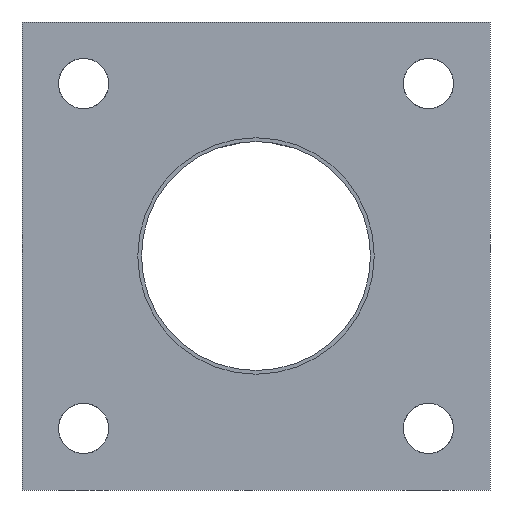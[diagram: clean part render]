
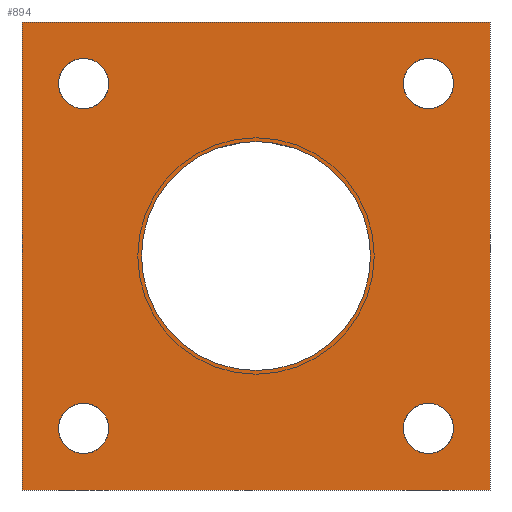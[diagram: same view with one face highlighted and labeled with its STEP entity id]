
A CAD part, front view. The second image highlights one B-rep face of the part: STEP entity #894.
In plain terms, the highlighted planar face has unit normal (0, -1, 0).
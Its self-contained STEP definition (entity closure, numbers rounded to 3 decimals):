
#1=CARTESIAN_POINT('',(0.,0.,0.));
#2=DIRECTION('',(0.,-1.,0.));
#3=DIRECTION('',(1.,0.,0.));
#4=AXIS2_PLACEMENT_3D('',#1,#2,#3);
#6=CARTESIAN_POINT('',(0.,0.,0.));
#7=DIRECTION('',(0.,-1.,0.));
#8=DIRECTION('',(-1.,0.,0.));
#9=AXIS2_PLACEMENT_3D('',#6,#7,#8);
#11=DIRECTION('',(0.,0.,1.));
#12=VECTOR('',#11,95.);
#13=CARTESIAN_POINT('',(-47.5,0.,-47.5));
#14=LINE('',#13,#12);
#15=DIRECTION('',(1.,0.,0.));
#16=VECTOR('',#15,95.);
#17=CARTESIAN_POINT('',(-47.5,0.,47.5));
#18=LINE('',#17,#16);
#19=DIRECTION('',(0.,0.,-1.));
#20=VECTOR('',#19,95.);
#21=CARTESIAN_POINT('',(47.5,0.,47.5));
#22=LINE('',#21,#20);
#23=DIRECTION('',(-1.,0.,0.));
#24=VECTOR('',#23,95.);
#25=CARTESIAN_POINT('',(47.5,0.,-47.5));
#26=LINE('',#25,#24);
#27=CARTESIAN_POINT('',(35.,0.,-35.));
#28=DIRECTION('',(0.,-1.,0.));
#29=DIRECTION('',(1.,0.,0.));
#30=AXIS2_PLACEMENT_3D('',#27,#28,#29);
#32=CARTESIAN_POINT('',(35.,0.,-35.));
#33=DIRECTION('',(0.,-1.,0.));
#34=DIRECTION('',(-1.,0.,0.));
#35=AXIS2_PLACEMENT_3D('',#32,#33,#34);
#37=CARTESIAN_POINT('',(-35.,0.,-35.));
#38=DIRECTION('',(0.,-1.,0.));
#39=DIRECTION('',(0.,0.,-1.));
#40=AXIS2_PLACEMENT_3D('',#37,#38,#39);
#42=CARTESIAN_POINT('',(-35.,0.,-35.));
#43=DIRECTION('',(0.,-1.,0.));
#44=DIRECTION('',(0.,0.,1.));
#45=AXIS2_PLACEMENT_3D('',#42,#43,#44);
#47=CARTESIAN_POINT('',(-35.,0.,35.));
#48=DIRECTION('',(0.,-1.,0.));
#49=DIRECTION('',(-1.,0.,0.));
#50=AXIS2_PLACEMENT_3D('',#47,#48,#49);
#52=CARTESIAN_POINT('',(-35.,0.,35.));
#53=DIRECTION('',(0.,-1.,0.));
#54=DIRECTION('',(1.,0.,0.));
#55=AXIS2_PLACEMENT_3D('',#52,#53,#54);
#57=CARTESIAN_POINT('',(35.,0.,35.));
#58=DIRECTION('',(0.,-1.,0.));
#59=DIRECTION('',(0.,0.,1.));
#60=AXIS2_PLACEMENT_3D('',#57,#58,#59);
#62=CARTESIAN_POINT('',(35.,0.,35.));
#63=DIRECTION('',(0.,-1.,0.));
#64=DIRECTION('',(0.,0.,-1.));
#65=AXIS2_PLACEMENT_3D('',#62,#63,#64);
#743=CARTESIAN_POINT('',(23.25,0.,0.));
#744=CARTESIAN_POINT('',(-23.25,0.,0.));
#745=VERTEX_POINT('',#743);
#746=VERTEX_POINT('',#744);
#747=CARTESIAN_POINT('',(-47.5,0.,-47.5));
#748=CARTESIAN_POINT('',(-47.5,0.,47.5));
#749=VERTEX_POINT('',#747);
#750=VERTEX_POINT('',#748);
#751=CARTESIAN_POINT('',(47.5,0.,47.5));
#752=VERTEX_POINT('',#751);
#753=CARTESIAN_POINT('',(47.5,0.,-47.5));
#754=VERTEX_POINT('',#753);
#767=CARTESIAN_POINT('',(40.1,0.,-35.));
#768=CARTESIAN_POINT('',(29.9,0.,-35.));
#769=VERTEX_POINT('',#767);
#770=VERTEX_POINT('',#768);
#775=CARTESIAN_POINT('',(-35.,0.,-40.1));
#776=CARTESIAN_POINT('',(-35.,0.,-29.9));
#777=VERTEX_POINT('',#775);
#778=VERTEX_POINT('',#776);
#783=CARTESIAN_POINT('',(-40.1,0.,35.));
#784=CARTESIAN_POINT('',(-29.9,0.,35.));
#785=VERTEX_POINT('',#783);
#786=VERTEX_POINT('',#784);
#791=CARTESIAN_POINT('',(35.,0.,40.1));
#792=CARTESIAN_POINT('',(35.,0.,29.9));
#793=VERTEX_POINT('',#791);
#794=VERTEX_POINT('',#792);
#849=CARTESIAN_POINT('',(0.,0.,0.));
#850=DIRECTION('',(0.,1.,0.));
#851=DIRECTION('',(1.,0.,0.));
#852=AXIS2_PLACEMENT_3D('',#849,#850,#851);
#853=PLANE('',#852);
#855=ORIENTED_EDGE('',*,*,#854,.T.);
#857=ORIENTED_EDGE('',*,*,#856,.T.);
#859=ORIENTED_EDGE('',*,*,#858,.T.);
#861=ORIENTED_EDGE('',*,*,#860,.T.);
#862=EDGE_LOOP('',(#855,#857,#859,#861));
#863=FACE_OUTER_BOUND('',#862,.F.);
#865=ORIENTED_EDGE('',*,*,#864,.T.);
#867=ORIENTED_EDGE('',*,*,#866,.T.);
#868=EDGE_LOOP('',(#865,#867));
#869=FACE_BOUND('',#868,.F.);
#871=ORIENTED_EDGE('',*,*,#870,.T.);
#873=ORIENTED_EDGE('',*,*,#872,.T.);
#874=EDGE_LOOP('',(#871,#873));
#875=FACE_BOUND('',#874,.F.);
#877=ORIENTED_EDGE('',*,*,#876,.T.);
#879=ORIENTED_EDGE('',*,*,#878,.T.);
#880=EDGE_LOOP('',(#877,#879));
#881=FACE_BOUND('',#880,.F.);
#883=ORIENTED_EDGE('',*,*,#882,.T.);
#885=ORIENTED_EDGE('',*,*,#884,.T.);
#886=EDGE_LOOP('',(#883,#885));
#887=FACE_BOUND('',#886,.F.);
#889=ORIENTED_EDGE('',*,*,#888,.T.);
#891=ORIENTED_EDGE('',*,*,#890,.T.);
#892=EDGE_LOOP('',(#889,#891));
#893=FACE_BOUND('',#892,.F.);
#894=ADVANCED_FACE('',(#863,#869,#875,#881,#887,#893),#853,.F.);
#5=CIRCLE('',#4,23.25);
#10=CIRCLE('',#9,23.25);
#31=CIRCLE('',#30,5.1);
#36=CIRCLE('',#35,5.1);
#41=CIRCLE('',#40,5.1);
#46=CIRCLE('',#45,5.1);
#51=CIRCLE('',#50,5.1);
#56=CIRCLE('',#55,5.1);
#61=CIRCLE('',#60,5.1);
#66=CIRCLE('',#65,5.1);
#854=EDGE_CURVE('',#749,#750,#14,.T.);
#856=EDGE_CURVE('',#750,#752,#18,.T.);
#858=EDGE_CURVE('',#752,#754,#22,.T.);
#860=EDGE_CURVE('',#754,#749,#26,.T.);
#864=EDGE_CURVE('',#745,#746,#5,.T.);
#866=EDGE_CURVE('',#746,#745,#10,.T.);
#870=EDGE_CURVE('',#769,#770,#31,.T.);
#872=EDGE_CURVE('',#770,#769,#36,.T.);
#876=EDGE_CURVE('',#777,#778,#41,.T.);
#878=EDGE_CURVE('',#778,#777,#46,.T.);
#882=EDGE_CURVE('',#785,#786,#51,.T.);
#884=EDGE_CURVE('',#786,#785,#56,.T.);
#888=EDGE_CURVE('',#793,#794,#61,.T.);
#890=EDGE_CURVE('',#794,#793,#66,.T.);
